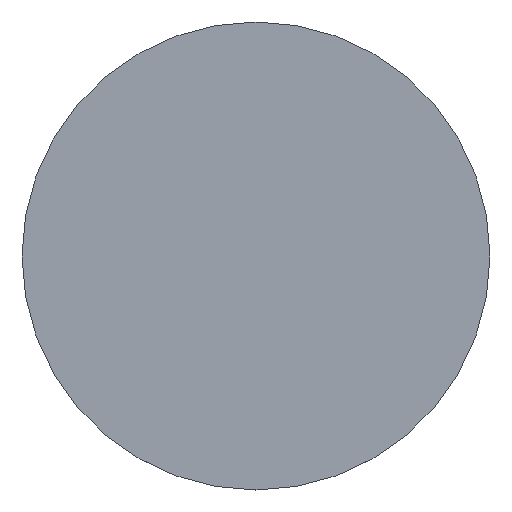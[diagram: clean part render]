
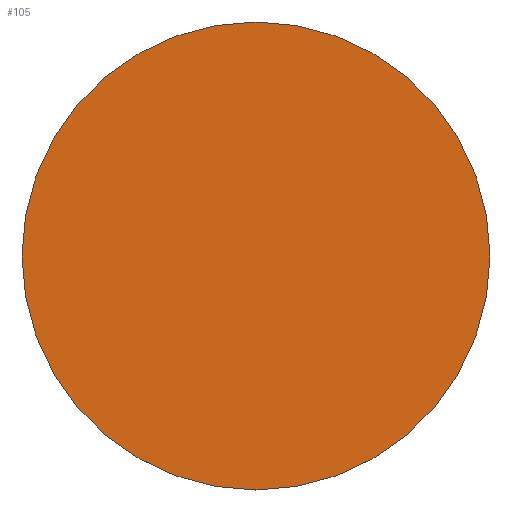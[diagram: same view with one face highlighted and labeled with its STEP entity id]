
A CAD part, top view. The second image highlights one B-rep face of the part: STEP entity #105.
In plain terms, the highlighted planar face has unit normal (0, 0, 1).
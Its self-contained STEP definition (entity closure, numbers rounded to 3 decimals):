
#21 = EDGE_CURVE('',#22,#22,#24,.T.);
#22 = VERTEX_POINT('',#23);
#23 = CARTESIAN_POINT('',(18.,0.,36.25));
#24 = SURFACE_CURVE('',#25,(#30,#42),.PCURVE_S1.);
#25 = CIRCLE('',#26,18.);
#26 = AXIS2_PLACEMENT_3D('',#27,#28,#29);
#27 = CARTESIAN_POINT('',(0.,0.,36.25));
#28 = DIRECTION('',(0.,0.,1.));
#29 = DIRECTION('',(1.,0.,-0.));
#30 = PCURVE('',#31,#36);
#31 = CYLINDRICAL_SURFACE('',#32,18.);
#32 = AXIS2_PLACEMENT_3D('',#33,#34,#35);
#33 = CARTESIAN_POINT('',(0.,0.,36.1));
#34 = DIRECTION('',(0.,0.,1.));
#35 = DIRECTION('',(1.,0.,-0.));
#36 = DEFINITIONAL_REPRESENTATION('',(#37),#41);
#37 = LINE('',#38,#39);
#38 = CARTESIAN_POINT('',(0.,0.15));
#39 = VECTOR('',#40,1.);
#40 = DIRECTION('',(1.,0.));
#41 = ( GEOMETRIC_REPRESENTATION_CONTEXT(2) 
PARAMETRIC_REPRESENTATION_CONTEXT() REPRESENTATION_CONTEXT('2D SPACE',''
  ) );
#42 = PCURVE('',#43,#48);
#43 = PLANE('',#44);
#44 = AXIS2_PLACEMENT_3D('',#45,#46,#47);
#45 = CARTESIAN_POINT('',(0.,0.,36.25));
#46 = DIRECTION('',(0.,0.,1.));
#47 = DIRECTION('',(1.,0.,-0.));
#48 = DEFINITIONAL_REPRESENTATION('',(#49),#53);
#49 = CIRCLE('',#50,18.);
#50 = AXIS2_PLACEMENT_2D('',#51,#52);
#51 = CARTESIAN_POINT('',(0.,0.));
#52 = DIRECTION('',(1.,0.));
#53 = ( GEOMETRIC_REPRESENTATION_CONTEXT(2) 
PARAMETRIC_REPRESENTATION_CONTEXT() REPRESENTATION_CONTEXT('2D SPACE',''
  ) );
#105 = ADVANCED_FACE('',(#106),#43,.T.);
#106 = FACE_BOUND('',#107,.T.);
#107 = EDGE_LOOP('',(#108));
#108 = ORIENTED_EDGE('',*,*,#21,.T.);
